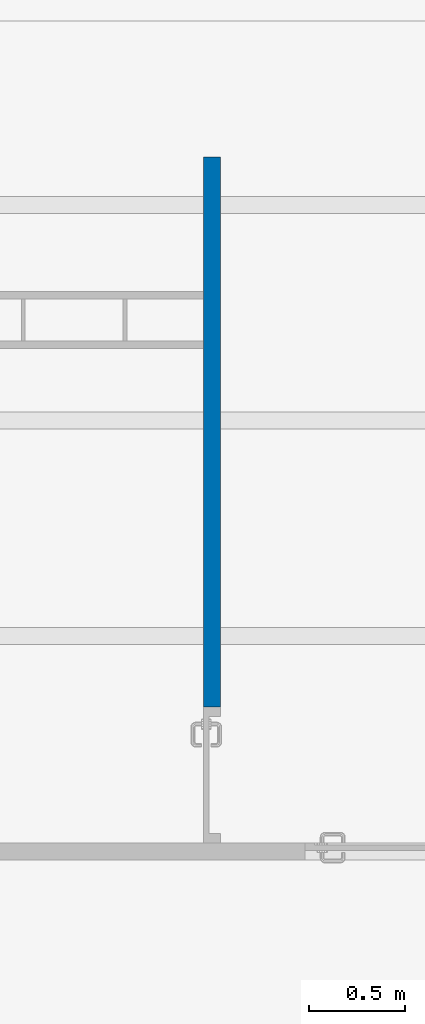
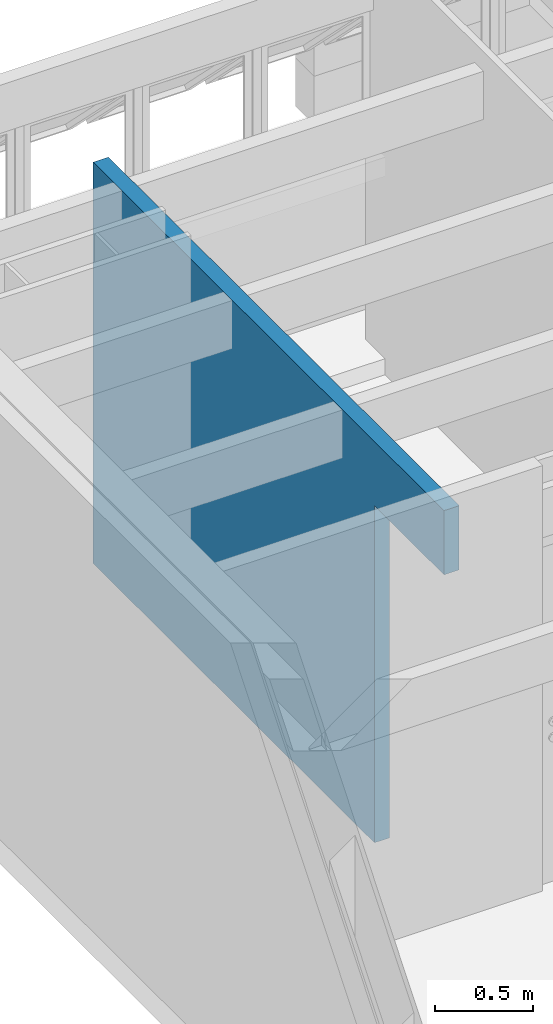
# One storey, part 7 of 37: 1 wall, 1 opening.
"""IFC2X3 building model written with IfcOpenShell, lengths in millimetres."""

from ifc_helpers import new_model, entity, si_unit, converted_unit, derived_unit, money_unit, direction, frame, origin_with_axes, origin_2d_with_axis, place, context, subcontext, project, spatial, polyline, rectangle, outline, extrude, material, layer, layer_set, layer_usage, type_object, element, save


model = new_model("IFC2X3")

# Units and contexts
model_context = context("Model", 3, precision=0.01, world=origin_with_axes(), true_north=direction((0.0, 1.0)))
body_context = subcontext(model_context, "Body", "Model", "MODEL_VIEW")
ifc_project = project(units=[si_unit("LENGTHUNIT", "METRE", prefix="MILLI"), si_unit("AREAUNIT", "SQUARE_METRE"), si_unit("VOLUMEUNIT", "CUBIC_METRE"), converted_unit("PLANEANGLEUNIT", "DEGREE", entity("IfcPlaneAngleMeasure", 0.0174532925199), si_unit("PLANEANGLEUNIT", "RADIAN"), dimensions=[0, 0, 0, 0, 0, 0, 0]), money_unit("USD"), converted_unit("TIMEUNIT", "Year", entity("IfcTimeMeasure", 31556926.0), si_unit("TIMEUNIT", "SECOND"), dimensions=[0, 0, 1, 0, 0, 0, 0]), si_unit("MASSUNIT", "GRAM", prefix="KILO"), si_unit("THERMODYNAMICTEMPERATUREUNIT", "DEGREE_CELSIUS"), si_unit("LUMINOUSINTENSITYUNIT", "LUMEN"), si_unit("ENERGYUNIT", "JOULE", prefix="MEGA"), derived_unit("THERMALCONDUCTANCEUNIT", [(si_unit("POWERUNIT", "WATT"), 1), (si_unit("LENGTHUNIT", "METRE"), -1), (si_unit("THERMODYNAMICTEMPERATUREUNIT", "KELVIN"), -1)]), derived_unit("SPECIFICHEATCAPACITYUNIT", [(si_unit("ENERGYUNIT", "JOULE"), 1), (si_unit("MASSUNIT", "GRAM", prefix="KILO"), -1), (si_unit("THERMODYNAMICTEMPERATUREUNIT", "KELVIN"), -1)]), derived_unit("MASSDENSITYUNIT", [(si_unit("MASSUNIT", "GRAM", prefix="KILO"), 1), (si_unit("VOLUMEUNIT", "CUBIC_METRE"), -1)])], contexts=[model_context])

# Site, building, storey
site_placement = place(None, origin_with_axes())
site = spatial("IfcSite", under=ifc_project, at=site_placement, Name="Local", CompositionType="ELEMENT")
building_placement = place(site_placement, origin_with_axes())
building = spatial("IfcBuilding", under=site, at=building_placement, Name="Construção", CompositionType="ELEMENT")
storey_placement = place(building_placement, origin_with_axes())
storey = spatial("IfcBuildingStorey", under=building, at=storey_placement, Name="Primeiro Pavimento", CompositionType="ELEMENT", Elevation=0.0)

# Wall, opening
ifc_material = material(Name="GENÉRICO - VEDAÇÃO EXTERNA")
ifc_layer = layer(ifc_material, 90.0, ventilated="UNKNOWN")
ifc_layer_set = layer_set([ifc_layer], Name="GENÉRICO - VEDAÇÃO EXTERNA 90")
ifc_layer_usage = layer_usage(ifc_layer_set, "AXIS2", "NEGATIVE", 0.0)
wall_type = type_object("IfcWallType", Name="GENÉRICO - VEDAÇÃO EXTERNA 90", PredefinedType="NOTDEFINED")
wall_placement = place(storey_placement, frame((1730.0, 7345.2195667, 0.0), z_axis=(0.0, 0.0, 1.0), x_axis=(0.0, -1.0, 0.0)))
wall = element("IfcWallStandardCase", 1, at=wall_placement, inside=storey, type_object=wall_type, material=ifc_layer_usage, Name="APTO1-PAREDE-012", context=body_context, shape_type="SweptSolid", body=[
    extrude(outline(polyline([(0.0, -90.0), (3580.0, -90.0), (3580.0, 0.0), (0.0, 0.0), (0.0, -90.0)])), origin_with_axes(), (0.0, 0.0, 1.0), 2500.0),
])
opening_placement = place(wall_placement, frame((3225.0, 0.0, 0.0), z_axis=(0.0, 0.0, 1.0), x_axis=(1.0, 0.0, 0.0)))
element("IfcOpeningElement", 2, at=opening_placement, cuts=wall, Name="APTO1-PORTA-003", context=body_context, shape_type="SweptSolid", body=[
    extrude(rectangle(XDim=710.0, YDim=2100.0, at=origin_2d_with_axis()), frame((0.0, -90.0, 1050.0), z_axis=(0.0, -1.0, 0.0), x_axis=(1.0, 0.0, 0.0)), (0.0, 0.0, -1.0), 270.0),
])

save(model, "model.ifc")
